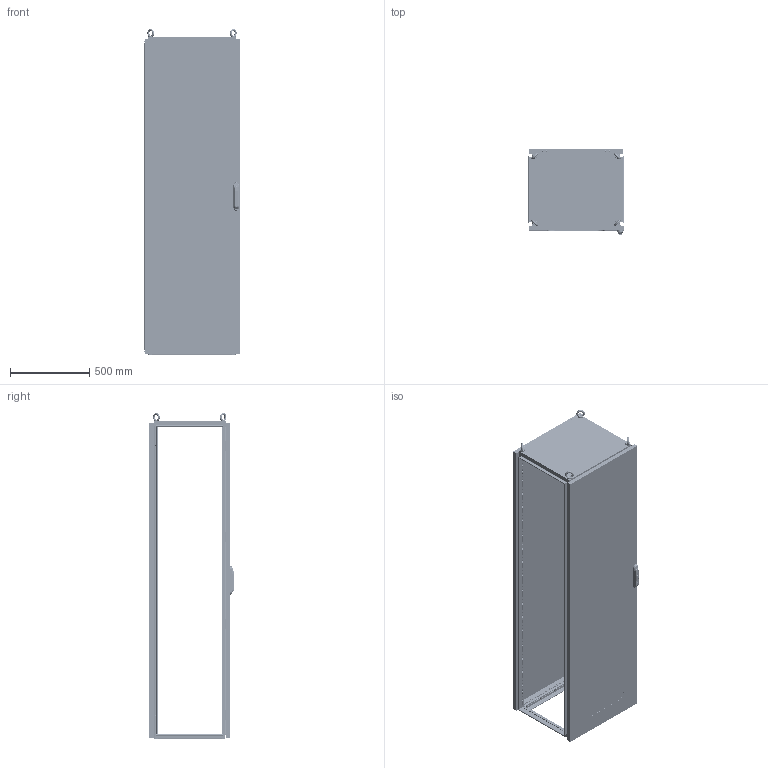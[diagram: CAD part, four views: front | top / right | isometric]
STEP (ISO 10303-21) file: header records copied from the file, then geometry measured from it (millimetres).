
FILE_DESCRIPTION(/* description */ ('Unknown'),/* implementation_level */ '2;1');
FILE_NAME(/* name */ 'MLA06020050',/* time_stamp */ '2025-03-11T09:44:33+01:00',/* author */ ('Unknown'),/* organization */ ('Unknown'),/* preprocessor_version */ 'ST-DEVELOPER v19.4',/* originating_system */ 'Solid Edge',/* authorisation */ 'Unknown');
FILE_SCHEMA (('CONFIG_CONTROL_DESIGN'));
Products named in the file (53): MLA06020050; F0000001.24; AE00198.03; M000X000.46; M0000000.14; AE00500.10; M000X000.47; M0000000.54; M0000000.44; M0000000.06; AE00219.03; AE00715.01; M000X000.60; M0000000.64; F000X001.98; F000X001.99; F0000001.44; F0000000.07; AE00100.03_oa_0; AE00100.03_oa_1; AE00100.03_oa_2; AE00100.03_oa_3; M0000000.37; AE00701.03; F0000000.13; M000X001.49; M000X001.50; M000X001.51; M0000001.27; AE00413.05; AE00417.01; M0000001.28; C0000001.45_oa_4; C0000001.45_oa_5; AE00322.01; M000X001.52; F0000002.22_oa_6; F0000002.22_oa_7; F0000002.15; AE01400.01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
Assembly tree (217 placements, depth 5):
  MLA06020050
    F0000001.24  x4
    AE00198.03  x16
    M000X000.46
      M0000000.14  x4
      AE00500.10  x48
      M000X000.47  x2
        M0000000.54
        M0000000.44
        M0000000.06
    AE00219.03  x8
    AE00715.01  x4
    M000X000.60
      M0000000.64
    F000X001.98
      F000X001.99
        F0000001.44
      F0000000.07  x2
      AE00100.03_oa_0
      AE00100.03_oa_1
      AE00100.03_oa_2
      AE00100.03_oa_3
    M0000000.37  x8
    AE00701.03  x4
    F0000000.13  x4
    M000X001.49
      M000X001.50
        M000X001.51
          M0000001.27
          AE00413.05  x6
          AE00417.01  x2
          M0000001.28
          C0000001.45_oa_4
          C0000001.45_oa_5
          AE00322.01  x2
        M000X001.52
          F0000002.22_oa_6
          F0000002.22_oa_7
          F0000002.15  x2
          AE01400.01  x4
        AE00192.01  x10
        F0000000.69  x10
      F0000000.12  x8
      AE00222.15  x8
      AE00316.01  x8
      AE00992.10_oa_8
      AE00992.31
      AE00315.01  x4
      AE00992.17   x2
      AE00992.18  x4
      AE00992.16
      AE00636.02  x8
    F0000000.08  x4
Bounding box: 600 x 538.2 x 2056.97 mm (x, y, z)
Volume: 15889459.2 mm3; surface area: 12217026.7 mm2
Topology: 226 solids, 226 shells, 10448 faces, 29599 edges, 19774 vertices
Faces by surface type: plane 7421, cylinder 2387, cone 552, torus 58, sphere 16, bspline 14
Full cylindrical faces by diameter (mm): 2 x4, 3 x1, 3.242 x2, 4 x12, 4.134 x7, 4.25 x192, 4.5 x896, 4.917 x65, 4.918 x8, 5 x8, 5.25 x2, 5.5 x10, 6 x68, 6.1 x20, 6.2 x8, 6.5 x22, 7.5 x2, 7.827 x2, 8.3 x8, 8.5 x2, 9 x48, 10.106 x8, 10.5 x16, 11 x10, 11.8 x8, 12 x16, 13 x4, 14 x1, 16 x1, 17 x1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
Entity records: 85221 total; most frequent: CARTESIAN_POINT 14829, DIRECTION 13252, ORIENTED_EDGE 13036, EDGE_CURVE 6518, LINE 4946, VECTOR 4946, VERTEX_POINT 4662, FACE_BOUND 4408
